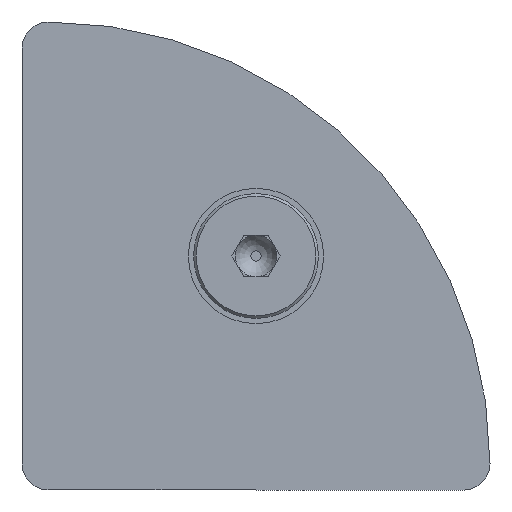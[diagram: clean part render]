
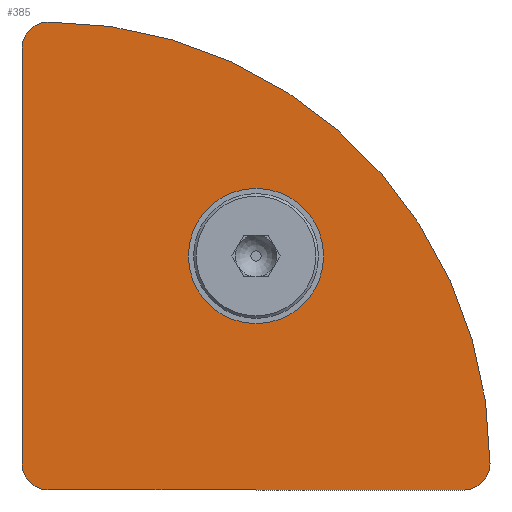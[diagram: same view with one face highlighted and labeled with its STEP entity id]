
A CAD part, front view. The second image highlights one B-rep face of the part: STEP entity #385.
In plain terms, the highlighted planar face has unit normal (0, -1, 0).
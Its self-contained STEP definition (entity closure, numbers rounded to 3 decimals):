
#151=CARTESIAN_POINT('',(0.016,-0.003,0.023));
#152=VERTEX_POINT('',#151);
#153=CARTESIAN_POINT('',(0.023,-0.003,0.023));
#154=DIRECTION('',(0.0,1.0,0.0));
#155=DIRECTION('',(1.0,0.0,0.0));
#156=AXIS2_PLACEMENT_3D('',#153,#154,#155);
#157=CIRCLE('',#156,0.007);
#158=EDGE_CURVE('',#152,#152,#157,.T.);
#180=CARTESIAN_POINT('',(0.0,-0.003,0.043));
#181=VERTEX_POINT('',#180);
#182=CARTESIAN_POINT('',(0.003,-0.003,0.045));
#183=VERTEX_POINT('',#182);
#184=CARTESIAN_POINT('',(0.003,-0.003,0.042));
#185=DIRECTION('',(0.0,1.0,0.0));
#186=DIRECTION('',(0.,0.0,1.0));
#187=AXIS2_PLACEMENT_3D('',#184,#185,#186);
#188=CIRCLE('',#187,0.003);
#189=EDGE_CURVE('',#181,#183,#188,.T.);
#222=CARTESIAN_POINT('',(0.045,-0.003,0.003));
#223=VERTEX_POINT('',#222);
#224=CARTESIAN_POINT('',(0.002,-0.003,0.002));
#225=DIRECTION('',(0.0,1.0,0.0));
#226=DIRECTION('',(1.0,0.0,0.));
#227=AXIS2_PLACEMENT_3D('',#224,#225,#226);
#228=CIRCLE('',#227,0.043);
#229=EDGE_CURVE('',#183,#223,#228,.T.);
#255=CARTESIAN_POINT('',(0.043,-0.003,0.));
#256=VERTEX_POINT('',#255);
#257=CARTESIAN_POINT('',(0.042,-0.003,0.003));
#258=DIRECTION('',(0.0,1.0,0.0));
#259=DIRECTION('',(0.,0.0,-1.0));
#260=AXIS2_PLACEMENT_3D('',#257,#258,#259);
#261=CIRCLE('',#260,0.003);
#262=EDGE_CURVE('',#223,#256,#261,.T.);
#288=CARTESIAN_POINT('',(0.003,-0.003,0.0));
#289=VERTEX_POINT('',#288);
#290=CARTESIAN_POINT('',(0.043,-0.003,0.0));
#291=DIRECTION('',(-1.0,0.0,0.0));
#292=VECTOR('',#291,0.04);
#293=LINE('',#290,#292);
#294=EDGE_CURVE('',#256,#289,#293,.T.);
#319=CARTESIAN_POINT('',(0.0,-0.003,0.003));
#320=VERTEX_POINT('',#319);
#321=CARTESIAN_POINT('',(0.003,-0.003,0.003));
#322=DIRECTION('',(0.0,1.0,0.0));
#323=DIRECTION('',(-1.0,0.0,0.));
#324=AXIS2_PLACEMENT_3D('',#321,#322,#323);
#325=CIRCLE('',#324,0.003);
#326=EDGE_CURVE('',#289,#320,#325,.T.);
#352=CARTESIAN_POINT('',(0.0,-0.003,0.003));
#353=DIRECTION('',(0.0,0.0,1.0));
#354=VECTOR('',#353,0.04);
#355=LINE('',#352,#354);
#356=EDGE_CURVE('',#320,#181,#355,.T.);
#369=CARTESIAN_POINT('',(0.019,-0.003,0.019));
#370=DIRECTION('',(0.0,-1.0,0.0));
#371=DIRECTION('',(0.0,0.0,-1.0));
#372=AXIS2_PLACEMENT_3D('',#369,#370,#371);
#373=PLANE('',#372);
#374=ORIENTED_EDGE('',*,*,#189,.F.);
#375=ORIENTED_EDGE('',*,*,#356,.F.);
#376=ORIENTED_EDGE('',*,*,#326,.F.);
#377=ORIENTED_EDGE('',*,*,#294,.F.);
#378=ORIENTED_EDGE('',*,*,#262,.F.);
#379=ORIENTED_EDGE('',*,*,#229,.F.);
#380=EDGE_LOOP('',(#374,#375,#376,#377,#378,#379));
#381=FACE_OUTER_BOUND('',#380,.T.);
#382=ORIENTED_EDGE('',*,*,#158,.T.);
#383=EDGE_LOOP('',(#382));
#384=FACE_BOUND('',#383,.T.);
#385=ADVANCED_FACE('',(#381,#384),#373,.T.);
